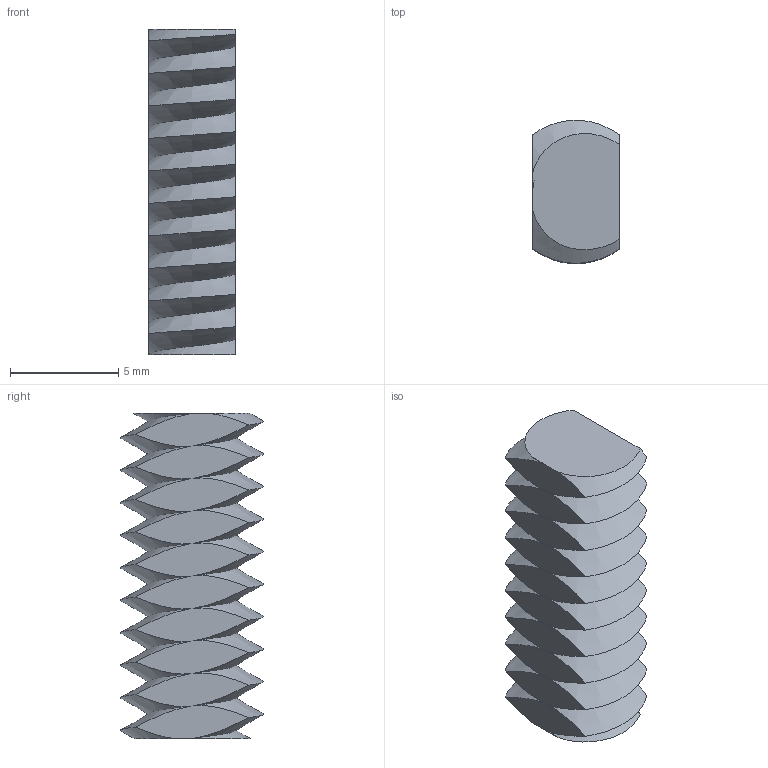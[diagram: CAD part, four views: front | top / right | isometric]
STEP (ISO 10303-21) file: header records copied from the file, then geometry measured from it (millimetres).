
FILE_DESCRIPTION(/* description */ (''),/* implementation_level */ '2;1');
FILE_NAME(/* name */ '/Users/paulokiefe/Documents/Current/OpenSTEM/Fasteners/Threaded rods/temp.step',/* time_stamp */ '2018-10-30T11:16:11+01:00',/* author */ ('operations8TLKW'),/* organization */ (''),/* preprocessor_version */ 'ST-DEVELOPER v17.2',/* originating_system */ 'Autodesk Translation Framework v7.6.0.251',/* authorisation */ '');
FILE_SCHEMA (('AUTOMOTIVE_DESIGN { 1 0 10303 214 3 1 1 }'));
Length unit declared in the file: millimetre
Products named in the file (1): Thread 15 mm - male (stackable 10x thread pitch)
Bounding box: 4 x 6.6 x 15 mm (x, y, z)
Volume: 283.1 mm3; surface area: 417.5 mm2
Topology: 1 solids, 1 shells, 46 faces, 132 edges, 88 vertices
Faces by surface type: bspline 42, plane 4
Entity records: 3589 total; most frequent: CARTESIAN_POINT 2729, ORIENTED_EDGE 264, EDGE_CURVE 132, B_SPLINE_CURVE_WITH_KNOTS 128, VERTEX_POINT 88, FACE_OUTER_BOUND 46, EDGE_LOOP 46, ADVANCED_FACE 46
